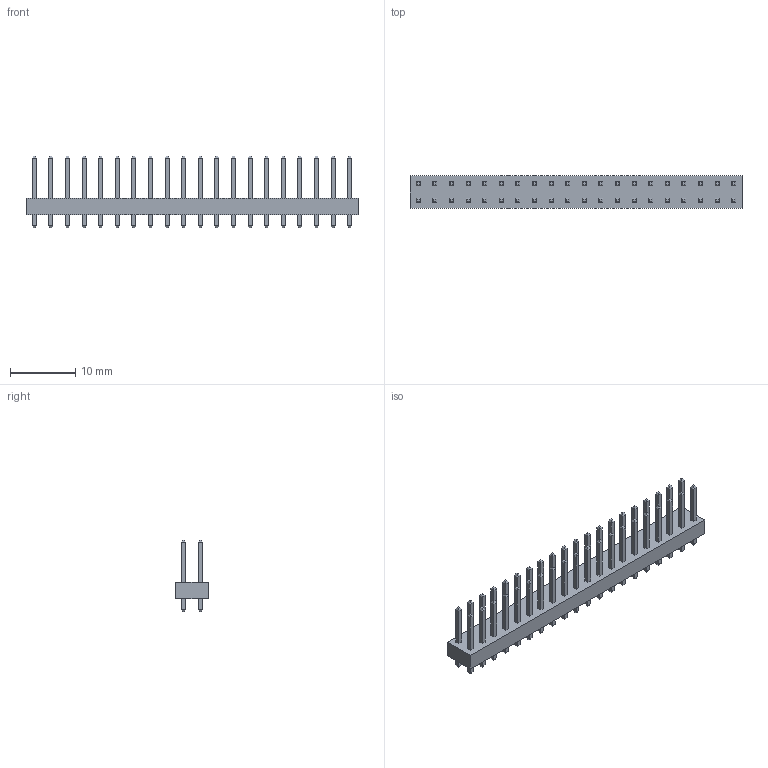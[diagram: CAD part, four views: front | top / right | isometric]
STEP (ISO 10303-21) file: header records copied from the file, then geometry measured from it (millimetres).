
FILE_DESCRIPTION (( 'STEP AP214' ), '1' );
FILE_NAME ( 'HDRV40W64P254_20X2_5080X500H898.STEP', '2021-10-06T06:48:58', ( '' ), ( '' ), '', '©2017 PCB Libraries, Inc.', '' );
FILE_SCHEMA (( 'AUTOMOTIVE_DESIGN' ));
Length unit declared in the file: millimetre
Products named in the file (1): HDRV40W64P254_20X2_5080X500H898
Bounding box: 50.8 x 5 x 10.98 mm (x, y, z)
Volume: 779.1 mm3; surface area: 1685.7 mm2
Topology: 81 solids, 81 shells, 806 faces, 1612 edges, 968 vertices
Faces by surface type: plane 806
Entity records: 22540 total; most frequent: CARTESIAN_POINT 3387, DIRECTION 3226, ORIENTED_EDGE 3224, VECTOR 1612, LINE 1612, EDGE_CURVE 1612, VERTEX_POINT 968, STYLED_ITEM 888
